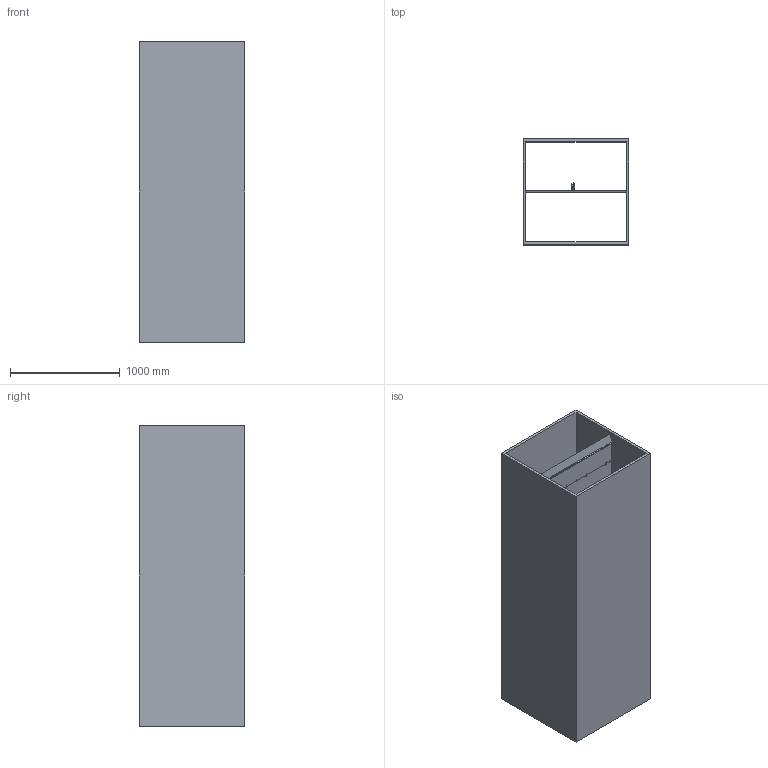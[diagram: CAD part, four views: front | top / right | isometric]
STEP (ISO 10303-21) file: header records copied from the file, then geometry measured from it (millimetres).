
FILE_DESCRIPTION (( 'STEP AP214' ), '1' );
FILE_NAME ('SPLITTER_ASSEMBLY_bump36_CFD_step.STEP', '2022-07-15T18:22:58', ( '' ), ( '' ), 'SwSTEP 2.0', 'SolidWorks 2020', '' );
FILE_SCHEMA (( 'AUTOMOTIVE_DESIGN' ));
Length unit declared in the file: metre
Products named in the file (11): SPLITTER_ASSEMBLY_bump36_CFD_iges.IGS; speedBump_v9b.IGS; BumpCover_vCFD.IGS; TrailingSection_v11.IGS; MovableSection_v9.IGS; speedBump_v9a.IGS; test_section_fullCFD_cf.IGS; LeadingSection_v8.IGS; SPLITTER_ASSEMBLY_bump36_CFD_step; TrailingFlap_v8.IGS; 4inSpacerSection_v11.IGS
Assembly tree (11 placements, depth 3):
  SPLITTER_ASSEMBLY_bump36_CFD_step
    SPLITTER_ASSEMBLY_bump36_CFD_iges.IGS
      LeadingSection_v8.IGS
      speedBump_v9a.IGS
      speedBump_v9b.IGS
      TrailingFlap_v8.IGS
      TrailingSection_v11.IGS
      MovableSection_v9.IGS  x2
      4inSpacerSection_v11.IGS
      BumpCover_vCFD.IGS
      test_section_fullCFD_cf.IGS
Bounding box: 965.2 x 965.2 x 2743.2 mm (x, y, z)
Volume: 281257497.9 mm3; surface area: 29355744.9 mm2
Topology: 8 solids, 10 shells, 488 faces, 1056 edges, 699 vertices
Faces by surface type: bspline 488
Entity records: 28543 total; most frequent: CARTESIAN_POINT 22359, ORIENTED_EDGE 1872, EDGE_CURVE 936, VERTEX_POINT 619, B_SPLINE_CURVE_WITH_KNOTS 577, EDGE_LOOP 547, ADVANCED_FACE 432, FACE_OUTER_BOUND 432
